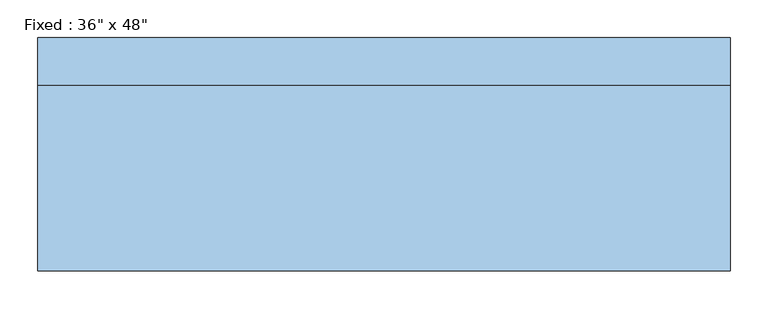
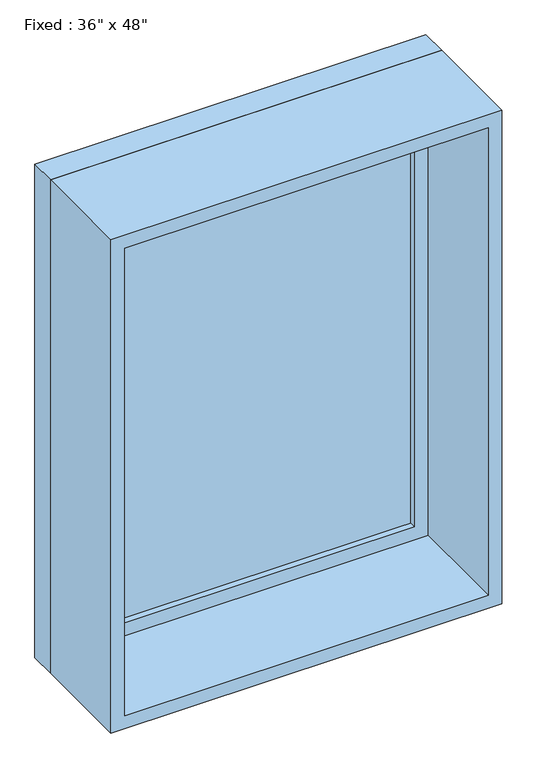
"""IFC4 building model written with IfcOpenShell, lengths in millimetres: window geometry."""

import ifcopenshell
import ifcopenshell.guid

model = None  # the IFC model being written
_history = None  # IfcOwnerHistory: only IFC2X3 demands one
_inside = {}  # id of a spatial element -> (the spatial element, [elements in it])
_under = {}  # id of a project, library or spatial element -> (it, [spatial elements below it])
_declared = {}  # id of a project -> (the project, [libraries it declares])
_typed = {}  # id of a type object -> (the type object, [elements of that type])
_made_of = {}  # id of a material, layer set ... -> (it, [elements and type objects made of it])


def new_model(schema):
    """Start an empty IFC model of exactly this schema.

    Asked for "IFC4X3", IfcOpenShell would pick the latest addendum, in which some entities
    have other attributes; the version numbers below select the first issue.
    IFC2X3 requires an IfcOwnerHistory on every rooted entity: one is made here for all.
    """
    global model, _history
    if schema == "IFC4X3":
        model = ifcopenshell.file(schema_version=(4, 3, 0, 0))
    else:
        model = ifcopenshell.file(schema=schema)
    _inside.clear()
    _under.clear()
    _declared.clear()
    _typed.clear()
    _made_of.clear()
    _history = None
    if model.schema == "IFC2X3":
        org = make("IfcOrganization", Name="unknown")
        user = make(
            "IfcPersonAndOrganization",
            ThePerson=make("IfcPerson", FamilyName="unknown"),
            TheOrganization=org,
        )
        app = make(
            "IfcApplication",
            ApplicationDeveloper=org,
            Version="unknown",
            ApplicationFullName="unknown",
            ApplicationIdentifier="unknown",
        )
        _history = make(
            "IfcOwnerHistory",
            OwningUser=user,
            OwningApplication=app,
            ChangeAction="ADDED",
            CreationDate=0,
        )
    return model


def make(cls, **values):
    """One entity of the class cls with the attributes given. An attribute that is None is left unset."""
    return model.create_entity(
        cls, **{name: value for name, value in values.items() if value is not None}
    )


def rooted(cls, **values):
    """An entity with a GlobalId (a new one), such as an element, a storey or a relation."""
    return make(cls, GlobalId=ifcopenshell.guid.new(), OwnerHistory=_history, **values)


def si_unit(unit_type, name, prefix=None):
    """IfcSIUnit, for example si_unit("LENGTHUNIT", "METRE", prefix="MILLI")."""
    return make("IfcSIUnit", UnitType=unit_type, Prefix=prefix, Name=name)


def assignment(units):
    """IfcUnitAssignment: the units of a project."""
    return None if units is None else make("IfcUnitAssignment", Units=units)


def point(xyz):
    """IfcCartesianPoint."""
    return None if xyz is None else make("IfcCartesianPoint", Coordinates=xyz)


def direction(xyz):
    """IfcDirection."""
    return None if xyz is None else make("IfcDirection", DirectionRatios=xyz)


def frame(location, z_axis=None, x_axis=None):
    """IfcAxis2Placement3D, a coordinate frame: its origin and axes. An axis left out is left unset."""
    return make(
        "IfcAxis2Placement3D",
        Location=point(location),
        Axis=direction(z_axis),
        RefDirection=direction(x_axis),
    )


def origin():
    """The frame at (0, 0, 0) with its axes left unset."""
    return frame((0.0, 0.0, 0.0))


def place(relative_to, where):
    """IfcLocalPlacement: puts the frame where relative to a parent placement (None: the world)."""
    return make(
        "IfcLocalPlacement", PlacementRelTo=relative_to, RelativePlacement=where
    )


def context(
    kind, dimensions, precision=None, world=None, true_north=None, identifier=None
):
    """IfcGeometricRepresentationContext, for example the 3D "Model" context."""
    return make(
        "IfcGeometricRepresentationContext",
        ContextIdentifier=identifier,
        ContextType=kind,
        CoordinateSpaceDimension=dimensions,
        Precision=precision,
        WorldCoordinateSystem=world,
        TrueNorth=true_north,
    )


def project(units=None, contexts=None):
    """IfcProject with its units and contexts."""
    return rooted(
        "IfcProject",
        Name="project",
        RepresentationContexts=contexts,
        UnitsInContext=assignment(units),
    )


def spatial(cls, under=None, at=None, **own):
    """A site, building, storey or space (cls), placed at a placement, below another one or the project."""
    s = rooted(cls, ObjectPlacement=at, **own)
    if under is not None:
        _under.setdefault(under.id(), (under, []))[1].append(s)
    return s


def polyline(points):
    """IfcPolyline through the points."""
    return make("IfcPolyline", Points=[point(p) for p in points])


def outline(outer, holes=None, kind="AREA"):
    """IfcArbitraryClosedProfileDef: a profile drawn as a closed curve; with holes, ...WithVoids."""
    if holes is None:
        return make("IfcArbitraryClosedProfileDef", ProfileType=kind, OuterCurve=outer)
    return make(
        "IfcArbitraryProfileDefWithVoids",
        ProfileType=kind,
        OuterCurve=outer,
        InnerCurves=holes,
    )


def extrude(swept, where, along, depth):
    """IfcExtrudedAreaSolid: the profile swept, set in the frame where, extruded along a direction by depth."""
    return make(
        "IfcExtrudedAreaSolid",
        SweptArea=swept,
        Position=where,
        ExtrudedDirection=direction(along),
        Depth=depth,
    )


def shape(context_of_items, identifier, shape_type, items):
    """IfcShapeRepresentation: the items that make up one representation, for example the "Body"."""
    return make(
        "IfcShapeRepresentation",
        ContextOfItems=context_of_items,
        RepresentationIdentifier=identifier,
        RepresentationType=shape_type,
        Items=items,
    )


def source(mapping_origin, context_of_items, identifier, shape_type, items):
    """IfcRepresentationMap: a shape defined once, which mapped items show again and again."""
    return make(
        "IfcRepresentationMap",
        MappingOrigin=mapping_origin,
        MappedRepresentation=shape(context_of_items, identifier, shape_type, items),
    )


def transform(
    local_origin,
    x_axis=None,
    y_axis=None,
    z_axis=None,
    scale=None,
    scale2=None,
    scale3=None,
    uniform=True,
):
    """IfcCartesianTransformationOperator3D, or its non-uniform kind. x_axis, y_axis, z_axis: its Axis1, 2, 3."""
    if uniform:
        return make(
            "IfcCartesianTransformationOperator3D",
            Axis1=direction(x_axis),
            Axis2=direction(y_axis),
            LocalOrigin=point(local_origin),
            Scale=scale,
            Axis3=direction(z_axis),
        )
    return make(
        "IfcCartesianTransformationOperator3DnonUniform",
        Axis1=direction(x_axis),
        Axis2=direction(y_axis),
        LocalOrigin=point(local_origin),
        Scale=scale,
        Axis3=direction(z_axis),
        Scale2=scale2,
        Scale3=scale3,
    )


def mapped(mapping_source, mapping_target):
    """IfcMappedItem: shows the shape of a source again, moved by a transform."""
    return make(
        "IfcMappedItem", MappingSource=mapping_source, MappingTarget=mapping_target
    )


def made_of(thing, what):
    """Note that an element or type object is made of a material, layer set ...; save() writes the relation."""
    if what is not None:
        _made_of.setdefault(what.id(), (what, []))[1].append(thing)
    return thing


def element(
    cls,
    number,
    at=None,
    inside=None,
    cuts=None,
    type_object=None,
    material=None,
    context=None,
    identifier="Body",
    shape_type=None,
    held_by="IfcProductDefinitionShape",
    body=None,
    shapes=None,
    **own,
):
    """One element of the class cls, such as IfcWall. Its Tag is "e" and its number.

    at: its placement. inside: the storey or other place that contains it. cuts: it is an
    opening in that element (IfcRelVoidsElement). A single representation is given by context,
    identifier, shape_type and body (its items); several are given by shapes. held_by: the class
    of the entity that holds the representations. save() writes the other relations.
    """
    e = rooted(cls, Tag="e%d" % number, ObjectPlacement=at, **own)
    if body is not None:
        shapes = [shape(context, identifier, shape_type, body)]
    if shapes is not None:
        e.Representation = make(held_by, Representations=shapes)
    if inside is not None:
        _inside.setdefault(inside.id(), (inside, []))[1].append(e)
    if cuts is not None:
        rooted(
            "IfcRelVoidsElement", RelatingBuildingElement=cuts, RelatedOpeningElement=e
        )
    if type_object is not None:
        _typed.setdefault(type_object.id(), (type_object, []))[1].append(e)
    return made_of(e, material)


def aggregate(whole, parts):
    """IfcRelAggregates: a whole, such as a stair, and the parts it consists of."""
    return rooted("IfcRelAggregates", RelatingObject=whole, RelatedObjects=parts)


def save(model, path):
    """Write the relations noted so far, then the file.

    IfcRelAggregates (storeys below a building ...), IfcRelContainedInSpatialStructure (elements
    in a storey), IfcRelDefinesByType, IfcRelAssociatesMaterial and IfcRelDeclares: one each for
    every whole, place, type object, material and project.
    """
    for whole, parts in _under.values():
        aggregate(whole, parts)
    for where, things in _inside.values():
        rooted(
            "IfcRelContainedInSpatialStructure",
            RelatedElements=things,
            RelatingStructure=where,
        )
    for kind, things in _typed.values():
        rooted("IfcRelDefinesByType", RelatedObjects=things, RelatingType=kind)
    for what, things in _made_of.values():
        rooted("IfcRelAssociatesMaterial", RelatedObjects=things, RelatingMaterial=what)
    for by, libraries in _declared.values():
        rooted("IfcRelDeclares", RelatingContext=by, RelatedDefinitions=libraries)
    model.write(path)


def window_dfee3f32(model_context):
    return source(origin(), model_context, "Body", "SweptSolid", [
        extrude(outline(polyline([(355.6, 106.3625), (-431.8, 106.3625), (-431.8, 119.0625), (355.6, 119.0625), (355.6, 106.3625)])), frame((0.0, 0.0, 977.9), z_axis=(0.0, 0.0, 1.0), x_axis=(1.0, 0.0, 0.0)), (0.0, 0.0, 1.0), 1092.2),
        extrude(outline(polyline([(2114.55, -476.25), (933.45, -476.25), (933.45, 400.05), (2114.55, 400.05), (2114.55, -476.25)]), holes=[polyline([(2070.1, -431.8), (2070.1, 355.6), (977.9, 355.6), (977.9, -431.8), (2070.1, -431.8)])]), frame((0.0, 90.4875, 0.0), z_axis=(0.0, 1.0, 0.0), x_axis=(0.0, 0.0, 1.0)), (0.0, 0.0, 1.0), 44.45),
        extrude(outline(polyline([(2133.6, -495.3), (914.4, -495.3), (914.4, 419.1), (2133.6, 419.1), (2133.6, -495.3)]), holes=[polyline([(2101.85, -463.55), (2101.85, 387.35), (946.15, 387.35), (946.15, -463.55), (2101.85, -463.55)])]), frame((0.0, -153.9875, 0.0), z_axis=(0.0, 1.0, 0.0), x_axis=(0.0, 0.0, 1.0)), (0.0, 0.0, 1.0), 244.475),
        extrude(outline(polyline([(2133.6, 419.1), (2133.6, -495.3), (914.4, -495.3), (914.4, 419.1), (2133.6, 419.1)]), holes=[polyline([(2114.55, 400.05), (933.45, 400.05), (933.45, -476.25), (2114.55, -476.25), (2114.55, 400.05)])]), frame((0.0, 90.4875, 0.0), z_axis=(0.0, 1.0, 0.0), x_axis=(0.0, 0.0, 1.0)), (0.0, 0.0, 1.0), 63.5),
    ])


if __name__ == "__main__":
    model = new_model("IFC4")
    model_context = context("Model", 3, world=origin())
    ifc_project = project(units=[si_unit("LENGTHUNIT", "METRE", prefix="MILLI")], contexts=[model_context])
    site = spatial("IfcSite", under=ifc_project)
    building = spatial("IfcBuilding", under=site)
    placement = place(None, origin())
    window_shape = window_dfee3f32(model_context)
    element("IfcWindow", 1, ObjectType="Fixed : 36\" x 48\"", at=placement, inside=building, context=model_context, shape_type="MappedRepresentation", body=[
        mapped(window_shape, transform((0.0, 0.0, 0.0), x_axis=(1.0, 0.0, 0.0), y_axis=(0.0, 1.0, 0.0), z_axis=(0.0, 0.0, 1.0))),
    ])
    save(model, "model.ifc")
